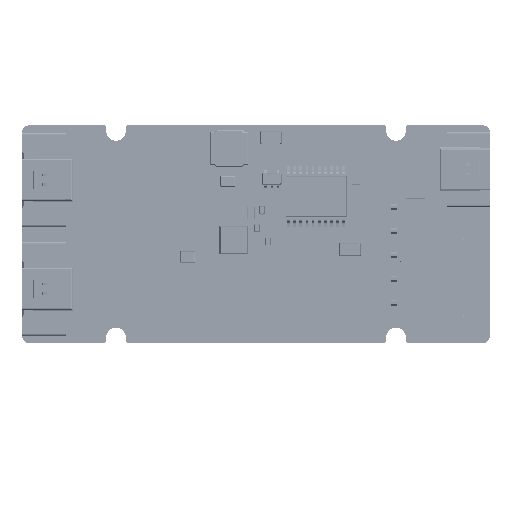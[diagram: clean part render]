
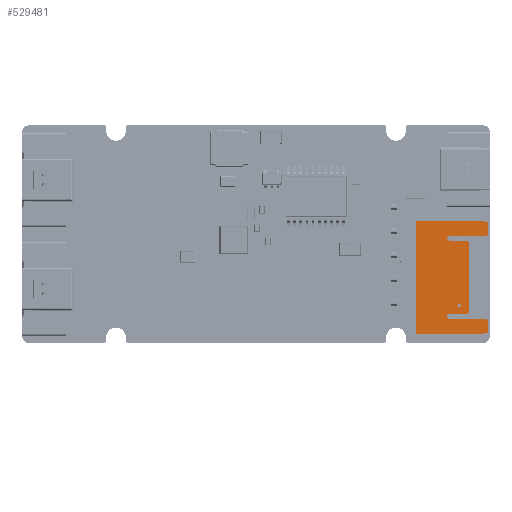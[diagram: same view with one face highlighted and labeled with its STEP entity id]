
A CAD part, top view. The second image highlights one B-rep face of the part: STEP entity #529481.
In plain terms, the highlighted planar face has unit normal (0, 0, 1).
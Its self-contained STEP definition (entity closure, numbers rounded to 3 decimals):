
#522689 = VERTEX_POINT('',#522690);
#522690 = CARTESIAN_POINT('',(33.075,1.375,
    2.58));
#522696 = EDGE_CURVE('',#522689,#522697,#522699,.T.);
#522697 = VERTEX_POINT('',#522698);
#522698 = CARTESIAN_POINT('',(33.075,-10.575,
    2.58));
#522699 = LINE('',#522700,#522701);
#522700 = CARTESIAN_POINT('',(33.075,1.375,
    2.58));
#522701 = VECTOR('',#522702,1.);
#522702 = DIRECTION('',(0.,-1.,0.));
#528964 = VERTEX_POINT('',#528965);
#528965 = CARTESIAN_POINT('',(40.575,-9.025,
    2.58));
#528971 = EDGE_CURVE('',#528972,#528964,#528974,.T.);
#528972 = VERTEX_POINT('',#528973);
#528973 = CARTESIAN_POINT('',(36.525,-9.025,
    2.58));
#528974 = LINE('',#528975,#528976);
#528975 = CARTESIAN_POINT('',(36.525,-9.025,
    2.58));
#528976 = VECTOR('',#528977,1.);
#528977 = DIRECTION('',(1.,0.,0.));
#529005 = VERTEX_POINT('',#529006);
#529006 = CARTESIAN_POINT('',(40.675,-9.125,
    2.58));
#529012 = EDGE_CURVE('',#528964,#529005,#529013,.T.);
#529013 = LINE('',#529014,#529015);
#529014 = CARTESIAN_POINT('',(40.575,-9.025,
    2.58));
#529015 = VECTOR('',#529016,1.);
#529016 = DIRECTION('',(0.707,-0.707,0.));
#529039 = VERTEX_POINT('',#529040);
#529040 = CARTESIAN_POINT('',(40.675,-10.475,
    2.58));
#529046 = EDGE_CURVE('',#529039,#529005,#529047,.T.);
#529047 = LINE('',#529048,#529049);
#529048 = CARTESIAN_POINT('',(40.675,-10.475,
    2.58));
#529049 = VECTOR('',#529050,1.);
#529050 = DIRECTION('',(0.,1.,0.));
#529443 = VERTEX_POINT('',#529444);
#529444 = CARTESIAN_POINT('',(40.175,-10.575,
    2.58));
#529450 = EDGE_CURVE('',#529443,#529039,#529451,.T.);
#529451 = LINE('',#529452,#529453);
#529452 = CARTESIAN_POINT('',(40.175,-10.575,
    2.58));
#529453 = VECTOR('',#529454,1.);
#529454 = DIRECTION('',(0.981,0.196,0.));
#529470 = EDGE_CURVE('',#522697,#529443,#529471,.T.);
#529471 = LINE('',#529472,#529473);
#529472 = CARTESIAN_POINT('',(33.075,-10.575,
    2.58));
#529473 = VECTOR('',#529474,1.);
#529474 = DIRECTION('',(1.,0.,0.));
#529481 = ADVANCED_FACE('',(#529482,#529620),#529646,.T.);
#529482 = FACE_BOUND('',#529483,.F.);
#529483 = EDGE_LOOP('',(#529484,#529494,#529503,#529511,#529520,#529528,
    #529536,#529544,#529552,#529560,#529569,#529577,#529584,#529585,
    #529586,#529587,#529588,#529589,#529590,#529598,#529606,#529614));
#529484 = ORIENTED_EDGE('',*,*,#529485,.T.);
#529485 = EDGE_CURVE('',#529486,#529488,#529490,.T.);
#529486 = VERTEX_POINT('',#529487);
#529487 = CARTESIAN_POINT('',(40.575,-0.175,
    2.58));
#529488 = VERTEX_POINT('',#529489);
#529489 = CARTESIAN_POINT('',(36.525,-0.175,
    2.58));
#529490 = LINE('',#529491,#529492);
#529491 = CARTESIAN_POINT('',(40.575,-0.175,
    2.58));
#529492 = VECTOR('',#529493,1.);
#529493 = DIRECTION('',(-1.,0.,0.));
#529494 = ORIENTED_EDGE('',*,*,#529495,.T.);
#529495 = EDGE_CURVE('',#529488,#529496,#529498,.T.);
#529496 = VERTEX_POINT('',#529497);
#529497 = CARTESIAN_POINT('',(36.375,-0.325,
    2.58));
#529498 = CIRCLE('',#529499,0.15);
#529499 = AXIS2_PLACEMENT_3D('',#529500,#529501,#529502);
#529500 = CARTESIAN_POINT('',(36.525,-0.325,
    2.58));
#529501 = DIRECTION('',(0.,0.,1.));
#529502 = DIRECTION('',(0.,1.,0.));
#529503 = ORIENTED_EDGE('',*,*,#529504,.T.);
#529504 = EDGE_CURVE('',#529496,#529505,#529507,.T.);
#529505 = VERTEX_POINT('',#529506);
#529506 = CARTESIAN_POINT('',(36.375,-0.525,
    2.58));
#529507 = LINE('',#529508,#529509);
#529508 = CARTESIAN_POINT('',(36.375,-0.325,
    2.58));
#529509 = VECTOR('',#529510,1.);
#529510 = DIRECTION('',(0.,-1.,0.));
#529511 = ORIENTED_EDGE('',*,*,#529512,.T.);
#529512 = EDGE_CURVE('',#529505,#529513,#529515,.T.);
#529513 = VERTEX_POINT('',#529514);
#529514 = CARTESIAN_POINT('',(36.525,-0.675,
    2.58));
#529515 = CIRCLE('',#529516,0.15);
#529516 = AXIS2_PLACEMENT_3D('',#529517,#529518,#529519);
#529517 = CARTESIAN_POINT('',(36.525,-0.525,
    2.58));
#529518 = DIRECTION('',(0.,0.,1.));
#529519 = DIRECTION('',(-1.,0.,0.));
#529520 = ORIENTED_EDGE('',*,*,#529521,.T.);
#529521 = EDGE_CURVE('',#529513,#529522,#529524,.T.);
#529522 = VERTEX_POINT('',#529523);
#529523 = CARTESIAN_POINT('',(38.475,-0.675,
    2.58));
#529524 = LINE('',#529525,#529526);
#529525 = CARTESIAN_POINT('',(36.525,-0.675,
    2.58));
#529526 = VECTOR('',#529527,1.);
#529527 = DIRECTION('',(1.,0.,0.));
#529528 = ORIENTED_EDGE('',*,*,#529529,.T.);
#529529 = EDGE_CURVE('',#529522,#529530,#529532,.T.);
#529530 = VERTEX_POINT('',#529531);
#529531 = CARTESIAN_POINT('',(38.675,-0.875,
    2.58));
#529532 = LINE('',#529533,#529534);
#529533 = CARTESIAN_POINT('',(38.475,-0.675,
    2.58));
#529534 = VECTOR('',#529535,1.);
#529535 = DIRECTION('',(0.707,-0.707,0.));
#529536 = ORIENTED_EDGE('',*,*,#529537,.F.);
#529537 = EDGE_CURVE('',#529538,#529530,#529540,.T.);
#529538 = VERTEX_POINT('',#529539);
#529539 = CARTESIAN_POINT('',(38.675,-8.325,
    2.58));
#529540 = LINE('',#529541,#529542);
#529541 = CARTESIAN_POINT('',(38.675,-8.325,
    2.58));
#529542 = VECTOR('',#529543,1.);
#529543 = DIRECTION('',(0.,1.,0.));
#529544 = ORIENTED_EDGE('',*,*,#529545,.T.);
#529545 = EDGE_CURVE('',#529538,#529546,#529548,.T.);
#529546 = VERTEX_POINT('',#529547);
#529547 = CARTESIAN_POINT('',(38.475,-8.525,
    2.58));
#529548 = LINE('',#529549,#529550);
#529549 = CARTESIAN_POINT('',(38.675,-8.325,
    2.58));
#529550 = VECTOR('',#529551,1.);
#529551 = DIRECTION('',(-0.707,-0.707,0.));
#529552 = ORIENTED_EDGE('',*,*,#529553,.T.);
#529553 = EDGE_CURVE('',#529546,#529554,#529556,.T.);
#529554 = VERTEX_POINT('',#529555);
#529555 = CARTESIAN_POINT('',(36.525,-8.525,
    2.58));
#529556 = LINE('',#529557,#529558);
#529557 = CARTESIAN_POINT('',(38.475,-8.525,
    2.58));
#529558 = VECTOR('',#529559,1.);
#529559 = DIRECTION('',(-1.,0.,0.));
#529560 = ORIENTED_EDGE('',*,*,#529561,.T.);
#529561 = EDGE_CURVE('',#529554,#529562,#529564,.T.);
#529562 = VERTEX_POINT('',#529563);
#529563 = CARTESIAN_POINT('',(36.375,-8.675,
    2.58));
#529564 = CIRCLE('',#529565,0.15);
#529565 = AXIS2_PLACEMENT_3D('',#529566,#529567,#529568);
#529566 = CARTESIAN_POINT('',(36.525,-8.675,
    2.58));
#529567 = DIRECTION('',(0.,0.,1.));
#529568 = DIRECTION('',(0.,1.,0.));
#529569 = ORIENTED_EDGE('',*,*,#529570,.T.);
#529570 = EDGE_CURVE('',#529562,#529571,#529573,.T.);
#529571 = VERTEX_POINT('',#529572);
#529572 = CARTESIAN_POINT('',(36.375,-8.875,
    2.58));
#529573 = LINE('',#529574,#529575);
#529574 = CARTESIAN_POINT('',(36.375,-8.675,
    2.58));
#529575 = VECTOR('',#529576,1.);
#529576 = DIRECTION('',(0.,-1.,0.));
#529577 = ORIENTED_EDGE('',*,*,#529578,.T.);
#529578 = EDGE_CURVE('',#529571,#528972,#529579,.T.);
#529579 = CIRCLE('',#529580,0.15);
#529580 = AXIS2_PLACEMENT_3D('',#529581,#529582,#529583);
#529581 = CARTESIAN_POINT('',(36.525,-8.875,
    2.58));
#529582 = DIRECTION('',(0.,0.,1.));
#529583 = DIRECTION('',(-1.,0.,0.));
#529584 = ORIENTED_EDGE('',*,*,#528971,.T.);
#529585 = ORIENTED_EDGE('',*,*,#529012,.T.);
#529586 = ORIENTED_EDGE('',*,*,#529046,.F.);
#529587 = ORIENTED_EDGE('',*,*,#529450,.F.);
#529588 = ORIENTED_EDGE('',*,*,#529470,.F.);
#529589 = ORIENTED_EDGE('',*,*,#522696,.F.);
#529590 = ORIENTED_EDGE('',*,*,#529591,.F.);
#529591 = EDGE_CURVE('',#529592,#522689,#529594,.T.);
#529592 = VERTEX_POINT('',#529593);
#529593 = CARTESIAN_POINT('',(40.175,1.375,
    2.58));
#529594 = LINE('',#529595,#529596);
#529595 = CARTESIAN_POINT('',(40.175,1.375,
    2.58));
#529596 = VECTOR('',#529597,1.);
#529597 = DIRECTION('',(-1.,0.,0.));
#529598 = ORIENTED_EDGE('',*,*,#529599,.F.);
#529599 = EDGE_CURVE('',#529600,#529592,#529602,.T.);
#529600 = VERTEX_POINT('',#529601);
#529601 = CARTESIAN_POINT('',(40.675,1.275,
    2.58));
#529602 = LINE('',#529603,#529604);
#529603 = CARTESIAN_POINT('',(40.675,1.275,
    2.58));
#529604 = VECTOR('',#529605,1.);
#529605 = DIRECTION('',(-0.981,0.196,0.));
#529606 = ORIENTED_EDGE('',*,*,#529607,.F.);
#529607 = EDGE_CURVE('',#529608,#529600,#529610,.T.);
#529608 = VERTEX_POINT('',#529609);
#529609 = CARTESIAN_POINT('',(40.675,-0.075,
    2.58));
#529610 = LINE('',#529611,#529612);
#529611 = CARTESIAN_POINT('',(40.675,-0.075,
    2.58));
#529612 = VECTOR('',#529613,1.);
#529613 = DIRECTION('',(0.,1.,0.));
#529614 = ORIENTED_EDGE('',*,*,#529615,.T.);
#529615 = EDGE_CURVE('',#529608,#529486,#529616,.T.);
#529616 = LINE('',#529617,#529618);
#529617 = CARTESIAN_POINT('',(40.675,-0.075,
    2.58));
#529618 = VECTOR('',#529619,1.);
#529619 = DIRECTION('',(-0.707,-0.707,0.));
#529620 = FACE_BOUND('',#529621,.F.);
#529621 = EDGE_LOOP('',(#529622,#529632,#529640));
#529622 = ORIENTED_EDGE('',*,*,#529623,.T.);
#529623 = EDGE_CURVE('',#529624,#529626,#529628,.T.);
#529624 = VERTEX_POINT('',#529625);
#529625 = CARTESIAN_POINT('',(37.908,-7.605,
    2.58));
#529626 = VERTEX_POINT('',#529627);
#529627 = CARTESIAN_POINT('',(37.475,-7.355,
    2.58));
#529628 = LINE('',#529629,#529630);
#529629 = CARTESIAN_POINT('',(37.908,-7.605,
    2.58));
#529630 = VECTOR('',#529631,1.);
#529631 = DIRECTION('',(-0.866,0.5,0.));
#529632 = ORIENTED_EDGE('',*,*,#529633,.T.);
#529633 = EDGE_CURVE('',#529626,#529634,#529636,.T.);
#529634 = VERTEX_POINT('',#529635);
#529635 = CARTESIAN_POINT('',(37.475,-7.855,
    2.58));
#529636 = LINE('',#529637,#529638);
#529637 = CARTESIAN_POINT('',(37.475,-7.355,
    2.58));
#529638 = VECTOR('',#529639,1.);
#529639 = DIRECTION('',(0.,-1.,0.));
#529640 = ORIENTED_EDGE('',*,*,#529641,.T.);
#529641 = EDGE_CURVE('',#529634,#529624,#529642,.T.);
#529642 = LINE('',#529643,#529644);
#529643 = CARTESIAN_POINT('',(37.475,-7.855,
    2.58));
#529644 = VECTOR('',#529645,1.);
#529645 = DIRECTION('',(0.866,0.5,0.));
#529646 = PLANE('',#529647);
#529647 = AXIS2_PLACEMENT_3D('',#529648,#529649,#529650);
#529648 = CARTESIAN_POINT('',(38.525,-4.6,
    2.58));
#529649 = DIRECTION('',(0.,0.,1.));
#529650 = DIRECTION('',(-1.,0.,0.));
